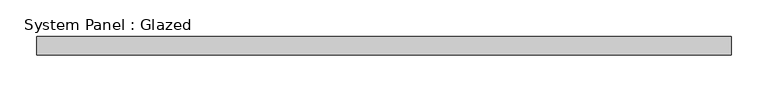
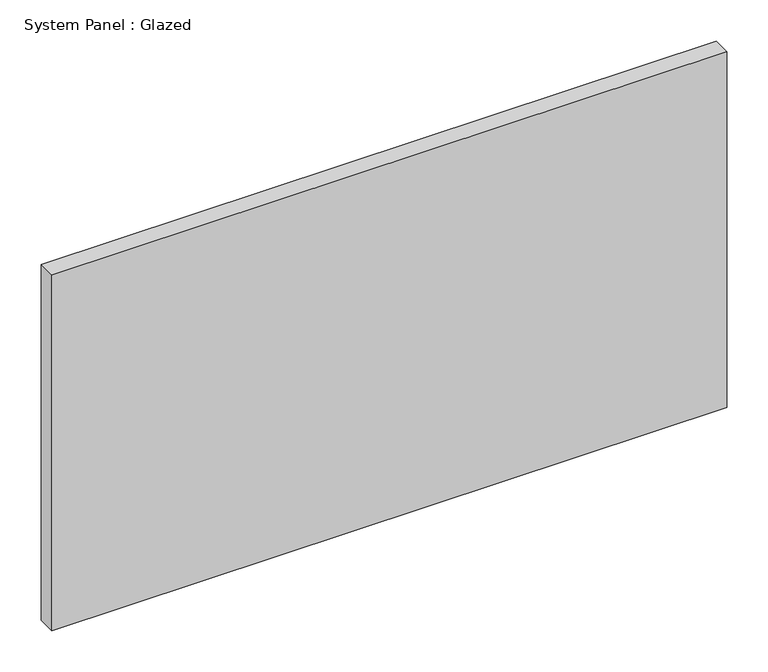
"""IFC4 building model written with IfcOpenShell, lengths in millimetres: plate geometry, System Panel : Glazed."""

from ifc_helpers import new_model, si_unit, origin, origin_with_axes, place, context, project, spatial, polyline, outline, extrude, source, transform, mapped, element, save


def system_panel_glazed_bf9b8f05(model_context):
    return source(origin(), model_context, "Body", "SweptSolid", [
        extrude(outline(polyline([(470.8333334, 24.5), (-470.8333334, 24.5), (-470.8333334, 49.5), (470.8333334, 49.5), (470.8333334, 24.5)])), origin_with_axes(), (0.0, 0.0, 1.0), 525.0),
    ])


if __name__ == "__main__":
    model = new_model("IFC4")
    model_context = context("Model", 3, world=origin())
    ifc_project = project(units=[si_unit("LENGTHUNIT", "METRE", prefix="MILLI")], contexts=[model_context])
    site = spatial("IfcSite", under=ifc_project)
    building = spatial("IfcBuilding", under=site)
    placement = place(None, origin())
    system_panel_glazed_shape = system_panel_glazed_bf9b8f05(model_context)
    element("IfcPlate", 1, ObjectType="System Panel : Glazed", at=placement, inside=building, context=model_context, shape_type="MappedRepresentation", body=[
        mapped(system_panel_glazed_shape, transform((0.0, 0.0, 0.0), x_axis=(1.0, 0.0, 0.0), y_axis=(0.0, 1.0, 0.0), z_axis=(0.0, 0.0, 1.0))),
    ])
    save(model, "model.ifc")
